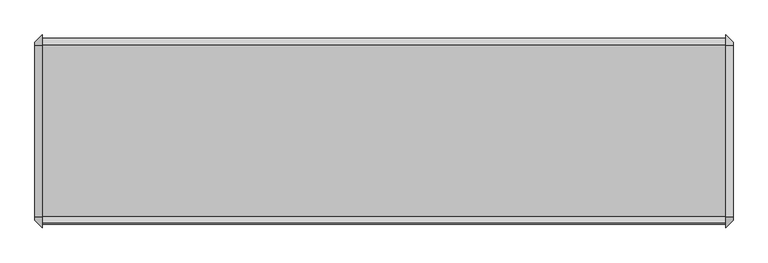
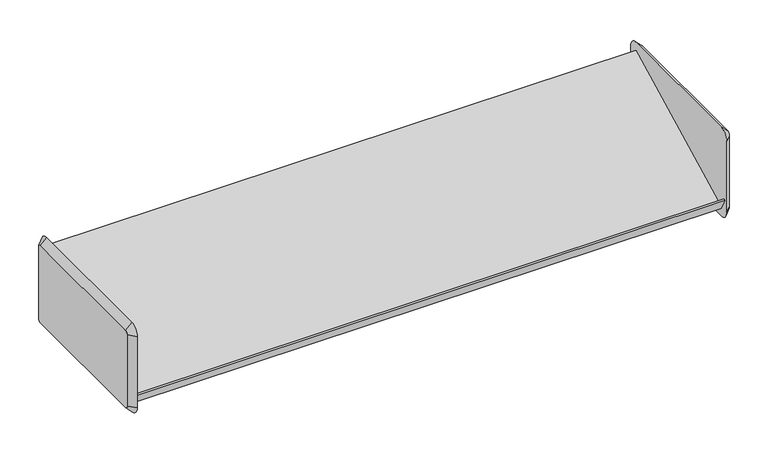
"""IFC4 building model written with IfcOpenShell, lengths in millimetres: furniture geometry."""

from ifc_helpers import new_model, si_unit, frame, origin, place, context, project, spatial, polyline, circle_curve, outline, extrude, source, transform, mapped, element, save
from ifc_brep_helpers import plane_surface, revolved_surface, advanced_brep


def furniture_8e6b3a5e(model_context):
    return source(origin(), model_context, "Body", "SolidModel", [
        advanced_brep(
        [(485.6579955, 161.925, 1628.64546), (485.6579955, -136.525, 1628.64546), (485.6579955, -142.875, 1622.29546), (485.6579955, -142.875, 1469.89546), (485.6579955, -136.525, 1463.54546), (485.6579955, 161.925, 1463.54546), (485.6579955, 168.275, 1469.89546), (485.6579955, 168.275, 1622.29546), (472.9579955, 161.925, 1641.34546), (472.9579955, 180.975, 1622.29546), (472.9579955, 180.975, 1469.89546), (472.9579955, 161.925, 1450.84546), (472.9579955, -136.525, 1450.84546), (472.9579955, -155.575, 1469.89546), (472.9579955, -155.575, 1622.29546), (472.9579955, -136.525, 1641.34546)],
        [
            (0, 1),
            (1, 2, circle_curve(frame((485.6579955, -136.525, 1622.29546), z_axis=(1.0, 2.0730084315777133e-12, -2.152944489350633e-12), x_axis=(2.152910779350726e-12, 0.0, 1.0)), 6.35)),
            (2, 3),
            (3, 4, circle_curve(frame((485.6579955, -136.525, 1469.89546), z_axis=(1.0, 2.0623502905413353e-12, 2.046363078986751e-12), x_axis=(2.0623164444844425e-12, -1.0, 0.0)), 6.35)),
            (4, 5),
            (5, 6, circle_curve(frame((485.6579955, 161.925, 1469.89546), z_axis=(1.0, 2.0889956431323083e-12, -2.0889956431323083e-12), x_axis=(-2.0890080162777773e-12, 0.0, -1.0)), 6.35)),
            (6, 7),
            (7, 0, circle_curve(frame((485.6579955, 161.925, 1622.29546), z_axis=(1.0, 2.078337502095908e-12, 2.003730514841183e-12), x_axis=(-2.078331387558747e-12, 1.0, 0.0)), 6.35)),
            (8, 9, circle_curve(frame((472.9579955, 161.925, 1622.29546), z_axis=(-1.0, -2.078337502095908e-12, -2.003730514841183e-12), x_axis=(-2.078331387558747e-12, 1.0, 0.0)), 19.05)),
            (9, 10),
            (10, 11, circle_curve(frame((472.9579955, 161.925, 1469.89546), z_axis=(-1.0, -2.0889956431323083e-12, 2.0889956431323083e-12), x_axis=(-2.0890080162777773e-12, 0.0, -1.0)), 19.05)),
            (11, 12),
            (12, 13, circle_curve(frame((472.9579955, -136.525, 1469.89546), z_axis=(-1.0, -2.0623502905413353e-12, -2.046363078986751e-12), x_axis=(2.0623164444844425e-12, -1.0, 0.0)), 19.05)),
            (13, 14),
            (14, 15, circle_curve(frame((472.9579955, -136.525, 1622.29546), z_axis=(-1.0, -2.0730084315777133e-12, 2.152944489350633e-12), x_axis=(2.152910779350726e-12, 0.0, 1.0)), 19.05)),
            (15, 8),
            (15, 1),
            (0, 8),
            (14, 2),
            (13, 3),
            (12, 4),
            (11, 5),
            (10, 6),
            (9, 7),
        ],
        [
            plane_surface(frame((485.6579955, 12.7, 1546.09546), z_axis=(1.0, 0.0, 0.0), x_axis=(0.0, -1.0, 0.0))),
            plane_surface(frame((472.9579955, 12.7, 1546.09546), z_axis=(-1.0, 0.0, 0.0), x_axis=(0.0, -1.0, 0.0))),
            plane_surface(frame((472.9579955, 12.7, 1641.34546), z_axis=(0.7071067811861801, 0.0, 0.707106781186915), x_axis=(0.0, -1.0, 0.0))),
            revolved_surface(polyline([(485.6579955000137, -136.525, 1628.6454599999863), (472.9579955, -136.525, 1641.34546)]), (492.0079955, -136.525, 1622.29546), (-1.0, -2.0730084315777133e-12, 2.152944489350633e-12)),
            plane_surface(frame((472.9579955, -155.575, 1546.09546), z_axis=(0.7071067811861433, -0.7071067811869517, 0.0), x_axis=(0.0, 0.0, -1.0))),
            revolved_surface(polyline([(485.6579955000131, -142.87499999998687, 1469.89546), (472.9579955, -155.575, 1469.89546)]), (492.0079955, -136.525, 1469.89546), (-1.0, -2.0623502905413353e-12, -2.046363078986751e-12)),
            plane_surface(frame((472.9579955, 12.7, 1450.84546), z_axis=(0.7071067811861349, 0.0, -0.7071067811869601), x_axis=(0.0, 1.0, 0.0))),
            revolved_surface(polyline([(485.6579955, 161.925, 1463.54546), (472.9579954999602, 161.925, 1450.8454599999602)]), (492.0079955, 161.925, 1469.89546), (-1.0, -2.0889956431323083e-12, 2.0889956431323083e-12)),
            plane_surface(frame((472.9579955, 180.975, 1546.09546), z_axis=(0.7071067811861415, 0.7071067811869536, 0.0), x_axis=(0.0, 0.0, 1.0))),
            revolved_surface(polyline([(485.6579955, 168.27499999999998, 1622.29546), (472.95799549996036, 180.97500000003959, 1622.29546)]), (492.0079955, 161.925, 1622.29546), (-1.0, -2.078337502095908e-12, -2.003730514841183e-12)),
        ],
        [
            (0, [[1, 2, 3, 4, 5, 6, 7, 8]]),
            (1, [[9, 10, 11, 12, 13, 14, 15, 16]]),
            (2, [[-16, 17, -1, 18]]),
            (3, [[-15, 19, -2, -17]]),
            (4, [[-14, 20, -3, -19]]),
            (5, [[-13, 21, -4, -20]]),
            (6, [[-12, 22, -5, -21]]),
            (7, [[-11, 23, -6, -22]]),
            (8, [[-10, 24, -7, -23]]),
            (9, [[-9, -18, -8, -24]]),
        ],
    ),
        advanced_brep(
        [(-733.5420045, -136.525, 1628.64546), (-733.5420045, 161.925, 1628.64546), (-733.5420045, 168.275, 1622.29546), (-733.5420045, 168.275, 1469.89546), (-733.5420045, 161.925, 1463.54546), (-733.5420045, -136.525, 1463.54546), (-733.5420045, -142.875, 1469.89546), (-733.5420045, -142.875, 1622.29546), (-720.8420045, -136.525, 1641.34546), (-720.8420045, -155.575, 1622.29546), (-720.8420045, -155.575, 1469.89546), (-720.8420045, -136.525, 1450.84546), (-720.8420045, 161.925, 1450.84546), (-720.8420045, 180.975, 1469.89546), (-720.8420045, 180.975, 1622.29546), (-720.8420045, 161.925, 1641.34546)],
        [
            (0, 1),
            (1, 2, circle_curve(frame((-733.5420045, 161.925, 1622.29546), z_axis=(-1.0, 0.0, 0.0), x_axis=(0.0, 0.0, 1.0)), 6.35)),
            (2, 3),
            (3, 4, circle_curve(frame((-733.5420045, 161.925, 1469.89546), z_axis=(-1.0, 0.0, 0.0), x_axis=(0.0, 1.0, 0.0)), 6.35)),
            (4, 5),
            (5, 6, circle_curve(frame((-733.5420045, -136.525, 1469.89546), z_axis=(-1.0, 0.0, 0.0), x_axis=(0.0, 0.0, -1.0)), 6.35)),
            (6, 7),
            (7, 0, circle_curve(frame((-733.5420045, -136.525, 1622.29546), z_axis=(-1.0, 0.0, 0.0), x_axis=(0.0, -1.0, 0.0)), 6.35)),
            (8, 9, circle_curve(frame((-720.8420045, -136.525, 1622.29546), z_axis=(1.0, 0.0, 0.0), x_axis=(0.0, -1.0, 0.0)), 19.05)),
            (9, 10),
            (10, 11, circle_curve(frame((-720.8420045, -136.525, 1469.89546), z_axis=(1.0, 0.0, 0.0), x_axis=(0.0, 0.0, -1.0)), 19.05)),
            (11, 12),
            (12, 13, circle_curve(frame((-720.8420045, 161.925, 1469.89546), z_axis=(1.0, 0.0, 0.0), x_axis=(0.0, 1.0, 0.0)), 19.05)),
            (13, 14),
            (14, 15, circle_curve(frame((-720.8420045, 161.925, 1622.29546), z_axis=(1.0, 0.0, 0.0), x_axis=(0.0, 0.0, 1.0)), 19.05)),
            (15, 8),
            (15, 1),
            (0, 8),
            (14, 2),
            (13, 3),
            (12, 4),
            (11, 5),
            (10, 6),
            (9, 7),
        ],
        [
            plane_surface(frame((-733.5420045, 12.7, 1546.09546), z_axis=(-1.0, 0.0, 0.0), x_axis=(0.0, -1.0, 0.0))),
            plane_surface(frame((-720.8420045, 12.7, 1546.09546), z_axis=(1.0, 0.0, 0.0), x_axis=(0.0, -1.0, 0.0))),
            plane_surface(frame((-720.8420045, 12.7, 1641.34546), z_axis=(-0.7071067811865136, 0.0, 0.7071067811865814), x_axis=(0.0, 1.0, 0.0))),
            revolved_surface(polyline([(-733.5420045, 161.925, 1628.6454600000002), (-720.8420045, 161.925, 1641.34546)]), (-739.8920045, 161.925, 1622.29546), (1.0, 0.0, 0.0)),
            plane_surface(frame((-720.8420045, 180.975, 1546.09546), z_axis=(-0.7071067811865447, 0.7071067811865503, 0.0), x_axis=(0.0, 0.0, -1.0))),
            revolved_surface(polyline([(-733.5420045, 168.27500000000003, 1469.89546), (-720.8420045, 180.975, 1469.89546)]), (-739.8920045, 161.925, 1469.89546), (1.0, 0.0, 0.0)),
            plane_surface(frame((-720.8420045, 12.7, 1450.84546), z_axis=(-0.7071067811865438, 0.0, -0.7071067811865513), x_axis=(0.0, -1.0, 0.0))),
            revolved_surface(polyline([(-733.5420045, -136.525, 1463.5454599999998), (-720.8420045, -136.525, 1450.84546)]), (-739.8920045, -136.525, 1469.89546), (1.0, 0.0, 0.0)),
            plane_surface(frame((-720.8420045, -155.575, 1546.09546), z_axis=(-0.7071067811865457, -0.7071067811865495, 0.0), x_axis=(0.0, 0.0, 1.0))),
            revolved_surface(polyline([(-733.5420045, -142.87500000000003, 1622.29546), (-720.8420045, -155.575, 1622.29546)]), (-739.8920045, -136.525, 1622.29546), (1.0, 0.0, 0.0)),
        ],
        [
            (0, [[1, 2, 3, 4, 5, 6, 7, 8]]),
            (1, [[9, 10, 11, 12, 13, 14, 15, 16]]),
            (2, [[-16, 17, -1, 18]]),
            (3, [[-15, 19, -2, -17]]),
            (4, [[-14, 20, -3, -19]]),
            (5, [[-13, 21, -4, -20]]),
            (6, [[-12, 22, -5, -21]]),
            (7, [[-11, 23, -6, -22]]),
            (8, [[-10, 24, -7, -23]]),
            (9, [[-9, -18, -8, -24]]),
        ],
    ),
        extrude(outline(polyline([(-137.2094993, 1467.7634266), (-149.845093, 1492.1922444), (-147.0173828, 1493.6361816), (-135.8404765, 1472.0274934), (162.5893131, 1624.4171794), (175.2453599, 1600.7925572), (172.4171401, 1599.3483598), (161.2606869, 1620.1737406), (-137.2094993, 1467.7634266)])), frame((-720.8420045, 0.0, 0.0), z_axis=(1.0, 0.0, 0.0), x_axis=(0.0, 1.0, 0.0)), (0.0, 0.0, 1.0), 1193.8),
    ])


if __name__ == "__main__":
    model = new_model("IFC4")
    model_context = context("Model", 3, world=origin())
    ifc_project = project(units=[si_unit("LENGTHUNIT", "METRE", prefix="MILLI")], contexts=[model_context])
    site = spatial("IfcSite", under=ifc_project)
    building = spatial("IfcBuilding", under=site)
    placement = place(None, origin())
    furniture_shape = furniture_8e6b3a5e(model_context)
    element("IfcFurniture", 1, ObjectType="HermanMiller_ActionOffice_A3220_B-StyleStorageDisplay : Display 13\"D x 48\"W", at=placement, inside=building, context=model_context, shape_type="MappedRepresentation", body=[
        mapped(furniture_shape, transform((0.0, 0.0, 0.0), x_axis=(1.0, 0.0, 0.0), y_axis=(0.0, 1.0, 0.0), z_axis=(0.0, 0.0, 1.0))),
    ])
    save(model, "model.ifc")
